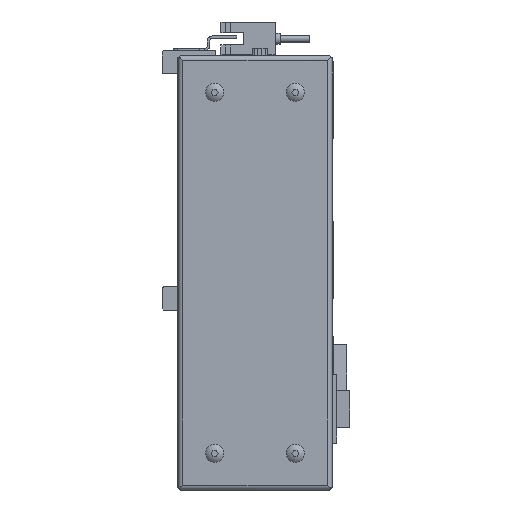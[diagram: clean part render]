
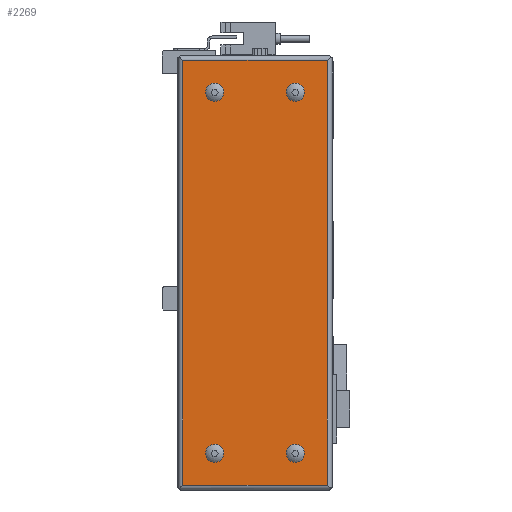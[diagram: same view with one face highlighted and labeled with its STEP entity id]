
A CAD part, left-side view. The second image highlights one B-rep face of the part: STEP entity #2269.
In plain terms, the highlighted planar face has unit normal (-1, 0, 0).
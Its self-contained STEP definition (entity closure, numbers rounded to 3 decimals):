
#2269 = ADVANCED_FACE( '', ( #4665, #4666, #4667, #4668, #4669 ), #4670, .F. );
#4665 = FACE_BOUND( '', #7070, .T. );
#4666 = FACE_BOUND( '', #7071, .T. );
#4667 = FACE_BOUND( '', #7072, .T. );
#4668 = FACE_BOUND( '', #7073, .T. );
#4669 = FACE_OUTER_BOUND( '', #7074, .T. );
#4670 = PLANE( '', #7075 );
#7070 = EDGE_LOOP( '', ( #13388 ) );
#7071 = EDGE_LOOP( '', ( #13389 ) );
#7072 = EDGE_LOOP( '', ( #13390 ) );
#7073 = EDGE_LOOP( '', ( #13391 ) );
#7074 = EDGE_LOOP( '', ( #13392, #13393, #13394, #13395 ) );
#7075 = AXIS2_PLACEMENT_3D( '', #13396, #13397, #13398 );
#13388 = ORIENTED_EDGE( '', *, *, #15289, .F. );
#13389 = ORIENTED_EDGE( '', *, *, #15721, .F. );
#13390 = ORIENTED_EDGE( '', *, *, #16298, .F. );
#13391 = ORIENTED_EDGE( '', *, *, #16299, .F. );
#13392 = ORIENTED_EDGE( '', *, *, #14212, .F. );
#13393 = ORIENTED_EDGE( '', *, *, #15454, .F. );
#13394 = ORIENTED_EDGE( '', *, *, #16300, .T. );
#13395 = ORIENTED_EDGE( '', *, *, #16190, .T. );
#13396 = CARTESIAN_POINT( '', ( -52., 0., 0. ) );
#13397 = DIRECTION( '', ( 1., 0., 0. ) );
#13398 = DIRECTION( '', ( 0., 0., -1. ) );
#14212 = EDGE_CURVE( '', #17085, #17087, #17088, .T. );
#15289 = EDGE_CURVE( '', #18821, #18821, #18822, .F. );
#15454 = EDGE_CURVE( '', #19055, #17085, #19058, .T. );
#15721 = EDGE_CURVE( '', #19419, #19419, #19420, .F. );
#16190 = EDGE_CURVE( '', #19999, #17087, #20000, .T. );
#16298 = EDGE_CURVE( '', #20109, #20109, #20110, .F. );
#16299 = EDGE_CURVE( '', #20111, #20111, #20112, .F. );
#16300 = EDGE_CURVE( '', #19055, #19999, #20113, .T. );
#17085 = VERTEX_POINT( '', #21170 );
#17087 = VERTEX_POINT( '', #21172 );
#17088 = LINE( '', #21173, #21174 );
#18821 = VERTEX_POINT( '', #23767 );
#18822 = CIRCLE( '', #23768, 3.7 );
#19055 = VERTEX_POINT( '', #24118 );
#19058 = LINE( '', #24121, #24122 );
#19419 = VERTEX_POINT( '', #24665 );
#19420 = CIRCLE( '', #24666, 3.7 );
#19999 = VERTEX_POINT( '', #25626 );
#20000 = LINE( '', #25627, #25628 );
#20109 = VERTEX_POINT( '', #25791 );
#20110 = CIRCLE( '', #25792, 3.7 );
#20111 = VERTEX_POINT( '', #25793 );
#20112 = CIRCLE( '', #25794, 3.7 );
#20113 = LINE( '', #25795, #25796 );
#21170 = CARTESIAN_POINT( '', ( -52., 2.5, 49. ) );
#21172 = CARTESIAN_POINT( '', ( -52., 2.5, -124.5 ) );
#21173 = CARTESIAN_POINT( '', ( -52., 2.5, 177.5 ) );
#21174 = VECTOR( '', #26387, 1000. );
#23767 = CARTESIAN_POINT( '', ( -52., 48.5, -115.2 ) );
#23768 = AXIS2_PLACEMENT_3D( '', #27642, #27643, #27644 );
#24118 = CARTESIAN_POINT( '', ( -52., 61.5, 49. ) );
#24121 = CARTESIAN_POINT( '', ( -52., 177.5, 49. ) );
#24122 = VECTOR( '', #27820, 1000. );
#24665 = CARTESIAN_POINT( '', ( -52., 15.5, 32.3 ) );
#24666 = AXIS2_PLACEMENT_3D( '', #28071, #28072, #28073 );
#25626 = CARTESIAN_POINT( '', ( -52., 61.5, -124.5 ) );
#25627 = CARTESIAN_POINT( '', ( -52., 177.5, -124.5 ) );
#25628 = VECTOR( '', #28507, 1000. );
#25791 = CARTESIAN_POINT( '', ( -52., 15.5, -115.2 ) );
#25792 = AXIS2_PLACEMENT_3D( '', #28559, #28560, #28561 );
#25793 = CARTESIAN_POINT( '', ( -52., 48.5, 32.3 ) );
#25794 = AXIS2_PLACEMENT_3D( '', #28562, #28563, #28564 );
#25795 = CARTESIAN_POINT( '', ( -52., 61.5, 177.5 ) );
#25796 = VECTOR( '', #28565, 1000. );
#26387 = DIRECTION( '', ( 0., 0., -1. ) );
#27642 = CARTESIAN_POINT( '', ( -52., 48.5, -111.5 ) );
#27643 = DIRECTION( '', ( 1., 0., 0. ) );
#27644 = DIRECTION( '', ( 0., 0., -1. ) );
#27820 = DIRECTION( '', ( 0., -1., 0. ) );
#28071 = CARTESIAN_POINT( '', ( -52., 15.5, 36. ) );
#28072 = DIRECTION( '', ( 1., 0., 0. ) );
#28073 = DIRECTION( '', ( 0., 0., -1. ) );
#28507 = DIRECTION( '', ( 0., -1., 0. ) );
#28559 = CARTESIAN_POINT( '', ( -52., 15.5, -111.5 ) );
#28560 = DIRECTION( '', ( 1., 0., 0. ) );
#28561 = DIRECTION( '', ( 0., 0., -1. ) );
#28562 = CARTESIAN_POINT( '', ( -52., 48.5, 36. ) );
#28563 = DIRECTION( '', ( 1., 0., 0. ) );
#28564 = DIRECTION( '', ( 0., 0., -1. ) );
#28565 = DIRECTION( '', ( 0., 0., -1. ) );
